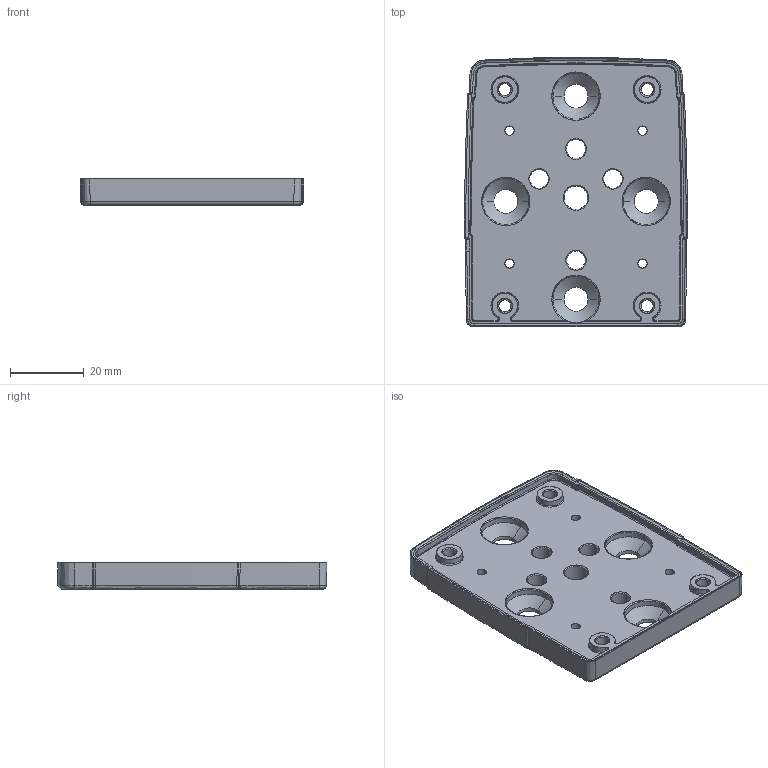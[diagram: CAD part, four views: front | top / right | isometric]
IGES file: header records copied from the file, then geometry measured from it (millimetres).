
Start section: SolidWorks IGES file using analytic representation for surfaces
Global section: file name: Y:\IS016\IS016-04\IS016-04_10-26-16.IGS; native system: SolidWorks 2016; preprocessor: SolidWorks 2016; author: rgainer; date: 161026.131147; units: millimetre
Bounding box: 60.5 x 73 x 7.15 mm (x, y, z)
Surface area: 12414.5 mm2 (no closed solid volume)
Topology: 0 solids, 0 shells, 688 faces, 5962 edges, 5928 vertices
Faces by surface type: bspline 394, revolution 294
